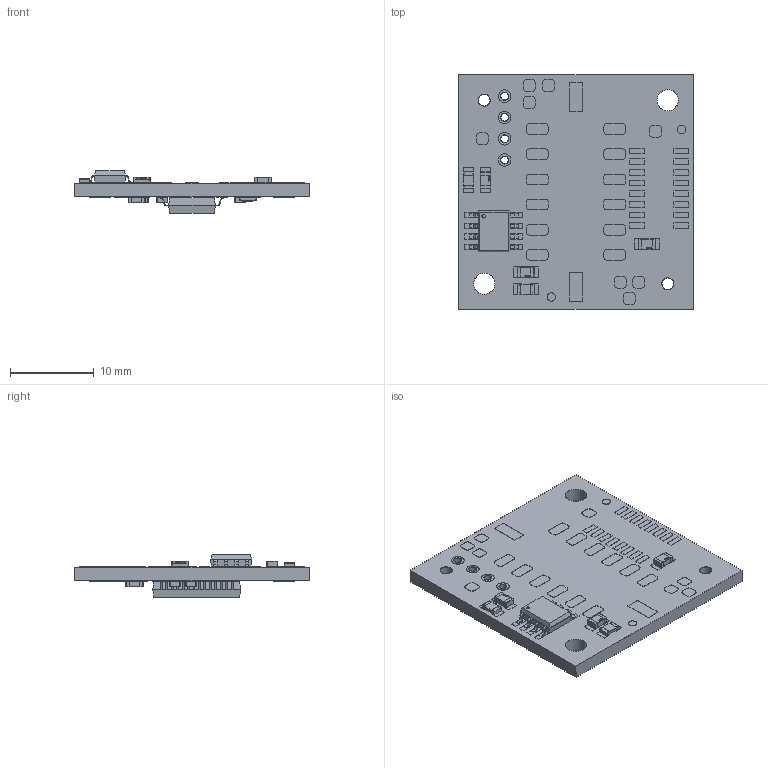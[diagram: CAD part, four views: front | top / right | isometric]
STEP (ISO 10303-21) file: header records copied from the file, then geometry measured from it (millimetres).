
FILE_DESCRIPTION (( 'STEP AP214' ), '1' );
FILE_NAME ('RMB28SSI_INC_AM4096_MODM367.STEP', '2019-12-04T15:03:05', ( '' ), ( '' ), 'SwSTEP 2.0', 'SolidWorks 2016', '' );
FILE_SCHEMA (( 'AUTOMOTIVE_DESIGN' ));
Length unit declared in the file: millimetre
Products named in the file (1): RMB28SSI_INC_AM4096_MODM367
Bounding box: 28 x 28 x 5.06 mm (x, y, z)
Volume: 1409.4 mm3; surface area: 2760.2 mm2
Topology: 183 solids, 183 shells, 2887 faces, 7129 edges, 4614 vertices
Faces by surface type: plane 1875, bspline 540, cylinder 472
Entity records: 156548 total; most frequent: CARTESIAN_POINT 58179, ORIENTED_EDGE 14114, DIRECTION 11321, EDGE_CURVE 7057, VECTOR 5169, LINE 5169, VERTEX_POINT 4614, AXIS2_PLACEMENT_3D 3076
